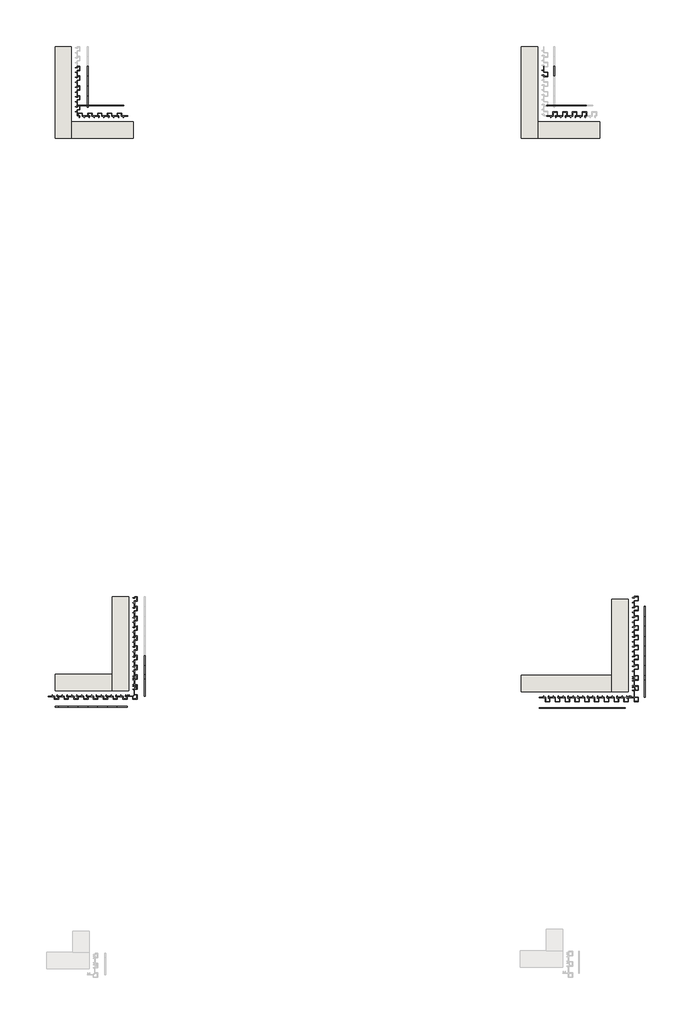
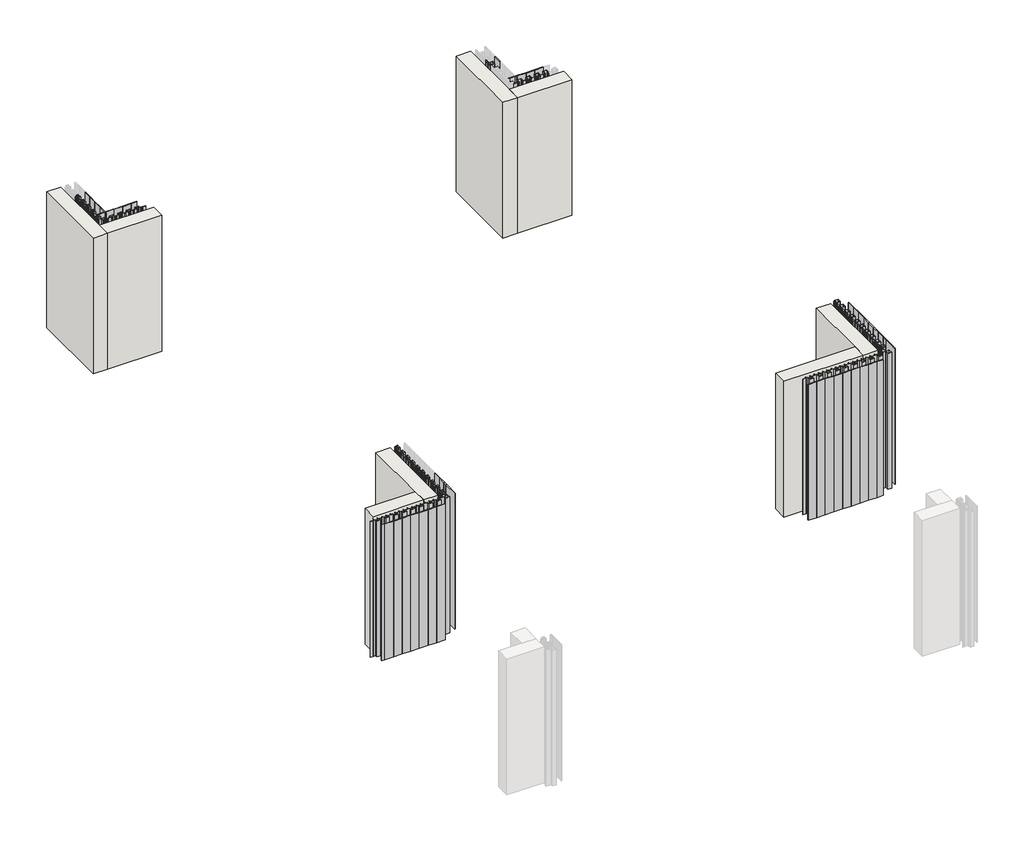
# One storey, part 3 of 5: 54 members, 46 plates, 8 walls.
"""IFC4 building model written with IfcOpenShell, lengths in millimetres."""

from ifc_helpers import new_model, si_unit, origin, origin_with_axes, place, context, project, spatial, polyline, outline, extrude, faceted_brep, transform, mapped, element, save
from components import rectangular_mullion_e7adb6c3, rectangular_mullion_4f3ead3b, rectangular_mullion_e60a95b4, rectangular_mullion_84234f72, rectangular_mullion_76c2134e, rectangular_mullion_3e5b5e47, rectangular_mullion_b2541346, rectangular_mullion_31400e68, rectangular_mullion_172d6531, rectangular_mullion_79f168d4, rectangular_mullion_f11ffd68, rectangular_mullion_de2d1e93, empty_system_panel_empty_0988e1f0, empty_system_panel_empty_c051c962, empty_system_panel_empty_5f038340, empty_system_panel_empty_5ee57205, empty_system_panel_empty_482ac549, empty_system_panel_empty_8461d5c4, empty_system_panel_empty_c6af10a3, empty_system_panel_empty_de31d617, empty_system_panel_empty_e2c7f9f0, empty_system_panel_empty_bd5c2647, empty_system_panel_empty_86054d0e, empty_system_panel_empty_80cd7aea, empty_system_panel_empty_1908f167

model = new_model("IFC4")

# Units and contexts
model_context = context("Model", 3, world=origin())
ifc_project = project(units=[si_unit("LENGTHUNIT", "METRE", prefix="MILLI")], contexts=[model_context])

# Site, building, storey
site = spatial("IfcSite", under=ifc_project)
building = spatial("IfcBuilding", under=site)
storey = spatial("IfcBuildingStorey", under=building, Name="REN - Ground plan", Elevation=0.0)

# Members
placement = place(None, origin())
rectangular_mullion_shape = rectangular_mullion_e7adb6c3(model_context)
element("IfcMember", 1, ObjectType="Rectangular Mullion : Renson_Linarte_LA-B25-03", at=placement, inside=storey, context=model_context, shape_type="MappedRepresentation", body=[
    mapped(rectangular_mullion_shape, transform((7626.8344965, 10097.3014326, 0.0), x_axis=(-6.757625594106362e-10, -1.0, 0.0), y_axis=(-1.0, 6.757625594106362e-10, 0.0), z_axis=(0.0, 0.0, -1.0))),
])
rectangular_mullion_2_shape = rectangular_mullion_4f3ead3b(model_context)
element("IfcMember", 2, ObjectType="Rectangular Mullion : Renson_Linarte_LA-B25-05", at=placement, inside=storey, context=model_context, shape_type="MappedRepresentation", body=[
    mapped(rectangular_mullion_2_shape, transform((7626.8344966, 10230.4014331, 0.0), x_axis=(-6.757625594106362e-10, -1.0, 0.0), y_axis=(-1.0, 6.757625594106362e-10, 0.0), z_axis=(0.0, 0.0, -1.0))),
])
rectangular_mullion_3_shape = rectangular_mullion_e60a95b4(model_context)
element("IfcMember", 3, ObjectType="Rectangular Mullion : Renson_Linarte_LA-B25-02", at=placement, inside=storey, context=model_context, shape_type="MappedRepresentation", body=[
    mapped(rectangular_mullion_3_shape, transform((7626.8344966, 10257.3014326, 1000.0), x_axis=(6.757625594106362e-10, 1.0, 0.0), y_axis=(-1.0, 6.757625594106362e-10, 0.0), z_axis=(0.0, 0.0, 1.0))),
])
rectangular_mullion_4_shape = rectangular_mullion_84234f72(model_context)
element("IfcMember", 4, ObjectType="Rectangular Mullion : Renson_Linarte_LA-B25-01", at=placement, inside=storey, context=model_context, shape_type="MappedRepresentation", body=[
    mapped(rectangular_mullion_4_shape, transform((7202.734497, 10158.4014326, 0.0), x_axis=(1.0, 0.0, 0.0), y_axis=(0.0, -1.0, 0.0), z_axis=(0.0, 0.0, -1.0))),
])
element("IfcMember", 5, ObjectType="Rectangular Mullion : Renson_Linarte_LA-B25-01", at=placement, inside=storey, context=model_context, shape_type="MappedRepresentation", body=[
    mapped(rectangular_mullion_4_shape, transform((7262.734497, 10158.4014326, 0.0), x_axis=(1.0, 0.0, 0.0), y_axis=(0.0, -1.0, 0.0), z_axis=(0.0, 0.0, -1.0))),
])
element("IfcMember", 6, ObjectType="Rectangular Mullion : Renson_Linarte_LA-B25-01", at=placement, inside=storey, context=model_context, shape_type="MappedRepresentation", body=[
    mapped(rectangular_mullion_4_shape, transform((7322.734497, 10158.4014326, 0.0), x_axis=(1.0, 0.0, 0.0), y_axis=(0.0, -1.0, 0.0), z_axis=(0.0, 0.0, -1.0))),
])
element("IfcMember", 7, ObjectType="Rectangular Mullion : Renson_Linarte_LA-B25-01", at=placement, inside=storey, context=model_context, shape_type="MappedRepresentation", body=[
    mapped(rectangular_mullion_4_shape, transform((7382.734497, 10158.4014326, 0.0), x_axis=(1.0, 0.0, 0.0), y_axis=(0.0, -1.0, 0.0), z_axis=(0.0, 0.0, -1.0))),
])
element("IfcMember", 8, ObjectType="Rectangular Mullion : Renson_Linarte_LA-B25-01", at=placement, inside=storey, context=model_context, shape_type="MappedRepresentation", body=[
    mapped(rectangular_mullion_4_shape, transform((7442.734497, 10158.4014326, 0.0), x_axis=(1.0, 0.0, 0.0), y_axis=(0.0, -1.0, 0.0), z_axis=(0.0, 0.0, -1.0))),
])
element("IfcMember", 9, ObjectType="Rectangular Mullion : Renson_Linarte_LA-B25-01", at=placement, inside=storey, context=model_context, shape_type="MappedRepresentation", body=[
    mapped(rectangular_mullion_4_shape, transform((7502.734497, 10158.4014326, 0.0), x_axis=(1.0, 0.0, 0.0), y_axis=(0.0, -1.0, 0.0), z_axis=(0.0, 0.0, -1.0))),
])
element("IfcMember", 10, ObjectType="Rectangular Mullion : Renson_Linarte_LA-B25-01", at=placement, inside=storey, context=model_context, shape_type="MappedRepresentation", body=[
    mapped(rectangular_mullion_4_shape, transform((7562.734497, 10158.4014326, 0.0), x_axis=(1.0, 0.0, 0.0), y_axis=(0.0, -1.0, 0.0), z_axis=(0.0, 0.0, -1.0))),
])
element("IfcMember", 11, ObjectType="Rectangular Mullion : Renson_Linarte_LA-B25-01", at=placement, inside=storey, context=model_context, shape_type="MappedRepresentation", body=[
    mapped(rectangular_mullion_4_shape, transform((7626.8344966, 10498.4014329, 0.0), x_axis=(0.0, 1.0, 0.0), y_axis=(1.0, 0.0, 0.0), z_axis=(0.0, 0.0, -1.0))),
])
element("IfcMember", 12, ObjectType="Rectangular Mullion : Renson_Linarte_LA-B25-01", at=placement, inside=storey, context=model_context, shape_type="MappedRepresentation", body=[
    mapped(rectangular_mullion_4_shape, transform((7626.8344966, 10558.4014329, 0.0), x_axis=(0.0, 1.0, 0.0), y_axis=(1.0, 0.0, 0.0), z_axis=(0.0, 0.0, -1.0))),
])
element("IfcMember", 13, ObjectType="Rectangular Mullion : Renson_Linarte_LA-B25-01", at=placement, inside=storey, context=model_context, shape_type="MappedRepresentation", body=[
    mapped(rectangular_mullion_4_shape, transform((7626.8344966, 10618.4014329, 0.0), x_axis=(0.0, 1.0, 0.0), y_axis=(1.0, 0.0, 0.0), z_axis=(0.0, 0.0, -1.0))),
])
element("IfcMember", 14, ObjectType="Rectangular Mullion : Renson_Linarte_LA-B25-01", at=placement, inside=storey, context=model_context, shape_type="MappedRepresentation", body=[
    mapped(rectangular_mullion_4_shape, transform((7626.8344966, 10678.4014329, 0.0), x_axis=(0.0, 1.0, 0.0), y_axis=(1.0, 0.0, 0.0), z_axis=(0.0, 0.0, -1.0))),
])
element("IfcMember", 15, ObjectType="Rectangular Mullion : Renson_Linarte_LA-B25-01", at=placement, inside=storey, context=model_context, shape_type="MappedRepresentation", body=[
    mapped(rectangular_mullion_4_shape, transform((7626.8344966, 10438.4014329, 0.0), x_axis=(0.0, 1.0, 0.0), y_axis=(1.0, 0.0, 0.0), z_axis=(0.0, 0.0, -1.0))),
])
element("IfcMember", 16, ObjectType="Rectangular Mullion : Renson_Linarte_LA-B25-01", at=placement, inside=storey, context=model_context, shape_type="MappedRepresentation", body=[
    mapped(rectangular_mullion_4_shape, transform((7626.8344966, 10378.4014329, 0.0), x_axis=(0.0, 1.0, 0.0), y_axis=(1.0, 0.0, 0.0), z_axis=(0.0, 0.0, -1.0))),
])
element("IfcMember", 17, ObjectType="Rectangular Mullion : Renson_Linarte_LA-B25-01", at=placement, inside=storey, context=model_context, shape_type="MappedRepresentation", body=[
    mapped(rectangular_mullion_4_shape, transform((7142.734497, 10158.4014326, 0.0), x_axis=(1.0, 0.0, 0.0), y_axis=(0.0, -1.0, 0.0), z_axis=(0.0, 0.0, -1.0))),
])
element("IfcMember", 18, ObjectType="Rectangular Mullion : Renson_Linarte_LA-B25-01", at=placement, inside=storey, context=model_context, shape_type="MappedRepresentation", body=[
    mapped(rectangular_mullion_4_shape, transform((7626.8344966, 10318.4014329, 0.0), x_axis=(0.0, 1.0, 0.0), y_axis=(1.0, 0.0, 0.0), z_axis=(0.0, 0.0, -1.0))),
])
rectangular_mullion_5_shape = rectangular_mullion_76c2134e(model_context)
element("IfcMember", 19, ObjectType="Rectangular Mullion : Renson_Linarte_LA-B25-01", at=placement, inside=storey, context=model_context, shape_type="MappedRepresentation", body=[
    mapped(rectangular_mullion_5_shape, transform((7082.7344967, 10158.4014326, 1000.0), x_axis=(-1.0, 0.0, 0.0), y_axis=(0.0, -1.0, 0.0), z_axis=(0.0, 0.0, 1.0))),
])
element("IfcMember", 20, ObjectType="Rectangular Mullion : Renson_Linarte_LA-B25-01", at=placement, inside=storey, context=model_context, shape_type="MappedRepresentation", body=[
    mapped(rectangular_mullion_5_shape, transform((7626.8344966, 10258.4014326, 1000.0), x_axis=(0.0, -1.0, 0.0), y_axis=(1.0, 0.0, 0.0), z_axis=(0.0, 0.0, 1.0))),
])
rectangular_mullion_6_shape = rectangular_mullion_3e5b5e47(model_context)
element("IfcMember", 21, ObjectType="Rectangular Mullion : Renson_Linarte_LA-B25-01", at=placement, inside=storey, context=model_context, shape_type="MappedRepresentation", body=[
    mapped(rectangular_mullion_6_shape, transform((7187.734497, 13647.7579432, 0.0), x_axis=(1.0, 0.0, 0.0), y_axis=(0.0, -1.0, 0.0), z_axis=(0.0, 0.0, -1.0))),
])
element("IfcMember", 22, ObjectType="Rectangular Mullion : Renson_Linarte_LA-B25-01", at=placement, inside=storey, context=model_context, shape_type="MappedRepresentation", body=[
    mapped(rectangular_mullion_6_shape, transform((7247.734497, 13647.7579432, 0.0), x_axis=(1.0, 0.0, 0.0), y_axis=(0.0, -1.0, 0.0), z_axis=(0.0, 0.0, -1.0))),
])
element("IfcMember", 23, ObjectType="Rectangular Mullion : Renson_Linarte_LA-B25-01", at=placement, inside=storey, context=model_context, shape_type="MappedRepresentation", body=[
    mapped(rectangular_mullion_6_shape, transform((7072.7344967, 13988.7579429, 0.0), x_axis=(0.0, -1.0, 0.0), y_axis=(-1.0, 0.0, 0.0), z_axis=(0.0, 0.0, -1.0))),
])
element("IfcMember", 24, ObjectType="Rectangular Mullion : Renson_Linarte_LA-B25-01", at=placement, inside=storey, context=model_context, shape_type="MappedRepresentation", body=[
    mapped(rectangular_mullion_6_shape, transform((7307.734497, 13647.7579432, 0.0), x_axis=(1.0, 0.0, 0.0), y_axis=(0.0, -1.0, 0.0), z_axis=(0.0, 0.0, -1.0))),
])
rectangular_mullion_7_shape = rectangular_mullion_b2541346(model_context)
element("IfcMember", 25, ObjectType="Rectangular Mullion : Renson_Linarte_LA-B25-01", at=placement, inside=storey, context=model_context, shape_type="MappedRepresentation", body=[
    mapped(rectangular_mullion_7_shape, transform((7127.7344967, 13647.7579432, 1000.0), x_axis=(-1.0, 0.0, 0.0), y_axis=(0.0, -1.0, 0.0), z_axis=(0.0, 0.0, 1.0))),
])
rectangular_mullion_8_shape = rectangular_mullion_31400e68(model_context)
element("IfcMember", 26, ObjectType="Rectangular Mullion : Renson_Linarte_LA-B16-01", at=placement, inside=storey, context=model_context, shape_type="MappedRepresentation", body=[
    mapped(rectangular_mullion_8_shape, transform((4566.7742528, 10680.7897981, 0.0), x_axis=(0.0, -1.0, 0.0), y_axis=(-1.0, 0.0, 0.0), z_axis=(0.0, 0.0, -1.0))),
])
element("IfcMember", 27, ObjectType="Rectangular Mullion : Renson_Linarte_LA-B16-01", at=placement, inside=storey, context=model_context, shape_type="MappedRepresentation", body=[
    mapped(rectangular_mullion_8_shape, transform((4566.7742528, 10620.7897981, 0.0), x_axis=(0.0, -1.0, 0.0), y_axis=(-1.0, 0.0, 0.0), z_axis=(0.0, 0.0, -1.0))),
])
element("IfcMember", 28, ObjectType="Rectangular Mullion : Renson_Linarte_LA-B16-01", at=placement, inside=storey, context=model_context, shape_type="MappedRepresentation", body=[
    mapped(rectangular_mullion_8_shape, transform((4566.7742528, 10560.7897981, 0.0), x_axis=(0.0, -1.0, 0.0), y_axis=(-1.0, 0.0, 0.0), z_axis=(0.0, 0.0, -1.0))),
])
element("IfcMember", 29, ObjectType="Rectangular Mullion : Renson_Linarte_LA-B16-01", at=placement, inside=storey, context=model_context, shape_type="MappedRepresentation", body=[
    mapped(rectangular_mullion_8_shape, transform((4566.7742528, 10500.7897981, 0.0), x_axis=(0.0, -1.0, 0.0), y_axis=(-1.0, 0.0, 0.0), z_axis=(0.0, 0.0, -1.0))),
])
element("IfcMember", 30, ObjectType="Rectangular Mullion : Renson_Linarte_LA-B16-01", at=placement, inside=storey, context=model_context, shape_type="MappedRepresentation", body=[
    mapped(rectangular_mullion_8_shape, transform((4566.7742528, 10440.7897981, 0.0), x_axis=(0.0, -1.0, 0.0), y_axis=(-1.0, 0.0, 0.0), z_axis=(0.0, 0.0, -1.0))),
])
element("IfcMember", 31, ObjectType="Rectangular Mullion : Renson_Linarte_LA-B16-01", at=placement, inside=storey, context=model_context, shape_type="MappedRepresentation", body=[
    mapped(rectangular_mullion_8_shape, transform((4566.7742528, 10380.7897981, 0.0), x_axis=(0.0, -1.0, 0.0), y_axis=(-1.0, 0.0, 0.0), z_axis=(0.0, 0.0, -1.0))),
])
element("IfcMember", 32, ObjectType="Rectangular Mullion : Renson_Linarte_LA-B16-01", at=placement, inside=storey, context=model_context, shape_type="MappedRepresentation", body=[
    mapped(rectangular_mullion_8_shape, transform((4498.9844499, 10165.6453559, 0.0), x_axis=(-1.0, 0.0, 0.0), y_axis=(0.0, 1.0, 0.0), z_axis=(0.0, 0.0, -1.0))),
])
element("IfcMember", 33, ObjectType="Rectangular Mullion : Renson_Linarte_LA-B16-01", at=placement, inside=storey, context=model_context, shape_type="MappedRepresentation", body=[
    mapped(rectangular_mullion_8_shape, transform((4438.9844499, 10165.6453559, 0.0), x_axis=(-1.0, 0.0, 0.0), y_axis=(0.0, 1.0, 0.0), z_axis=(0.0, 0.0, -1.0))),
])
element("IfcMember", 34, ObjectType="Rectangular Mullion : Renson_Linarte_LA-B16-01", at=placement, inside=storey, context=model_context, shape_type="MappedRepresentation", body=[
    mapped(rectangular_mullion_8_shape, transform((4378.9844499, 10165.6453559, 0.0), x_axis=(-1.0, 0.0, 0.0), y_axis=(0.0, 1.0, 0.0), z_axis=(0.0, 0.0, -1.0))),
])
element("IfcMember", 35, ObjectType="Rectangular Mullion : Renson_Linarte_LA-B16-01", at=placement, inside=storey, context=model_context, shape_type="MappedRepresentation", body=[
    mapped(rectangular_mullion_8_shape, transform((4318.9844499, 10165.6453559, 0.0), x_axis=(-1.0, 0.0, 0.0), y_axis=(0.0, 1.0, 0.0), z_axis=(0.0, 0.0, -1.0))),
])
element("IfcMember", 36, ObjectType="Rectangular Mullion : Renson_Linarte_LA-B16-01", at=placement, inside=storey, context=model_context, shape_type="MappedRepresentation", body=[
    mapped(rectangular_mullion_8_shape, transform((4258.9844499, 10165.6453559, 0.0), x_axis=(-1.0, 0.0, 0.0), y_axis=(0.0, 1.0, 0.0), z_axis=(0.0, 0.0, -1.0))),
])
element("IfcMember", 37, ObjectType="Rectangular Mullion : Renson_Linarte_LA-B16-01", at=placement, inside=storey, context=model_context, shape_type="MappedRepresentation", body=[
    mapped(rectangular_mullion_8_shape, transform((4198.9844499, 10165.6453559, 0.0), x_axis=(-1.0, 0.0, 0.0), y_axis=(0.0, 1.0, 0.0), z_axis=(0.0, 0.0, -1.0))),
])
element("IfcMember", 38, ObjectType="Rectangular Mullion : Renson_Linarte_LA-B16-01", at=placement, inside=storey, context=model_context, shape_type="MappedRepresentation", body=[
    mapped(rectangular_mullion_8_shape, transform((4566.7742528, 10320.7897981, 0.0), x_axis=(0.0, -1.0, 0.0), y_axis=(-1.0, 0.0, 0.0), z_axis=(0.0, 0.0, -1.0))),
])
element("IfcMember", 39, ObjectType="Rectangular Mullion : Renson_Linarte_LA-B16-01", at=placement, inside=storey, context=model_context, shape_type="MappedRepresentation", body=[
    mapped(rectangular_mullion_8_shape, transform((4138.9844499, 10165.6453559, 0.0), x_axis=(-1.0, 0.0, 0.0), y_axis=(0.0, 1.0, 0.0), z_axis=(0.0, 0.0, -1.0))),
])
element("IfcMember", 40, ObjectType="Rectangular Mullion : Renson_Linarte_LA-B16-01", at=placement, inside=storey, context=model_context, shape_type="MappedRepresentation", body=[
    mapped(rectangular_mullion_8_shape, transform((4316.774253, 13647.7579432, 0.0), x_axis=(1.0, 0.0, 0.0), y_axis=(0.0, -1.0, 0.0), z_axis=(0.0, 0.0, -1.0))),
])
element("IfcMember", 41, ObjectType="Rectangular Mullion : Renson_Linarte_LA-B16-01", at=placement, inside=storey, context=model_context, shape_type="MappedRepresentation", body=[
    mapped(rectangular_mullion_8_shape, transform((4376.774253, 13647.7579432, 0.0), x_axis=(1.0, 0.0, 0.0), y_axis=(0.0, -1.0, 0.0), z_axis=(0.0, 0.0, -1.0))),
])
element("IfcMember", 42, ObjectType="Rectangular Mullion : Renson_Linarte_LA-B16-01", at=placement, inside=storey, context=model_context, shape_type="MappedRepresentation", body=[
    mapped(rectangular_mullion_8_shape, transform((4216.7742527, 13988.7579429, 0.0), x_axis=(0.0, -1.0, 0.0), y_axis=(-1.0, 0.0, 0.0), z_axis=(0.0, 0.0, -1.0))),
])
element("IfcMember", 43, ObjectType="Rectangular Mullion : Renson_Linarte_LA-B16-01", at=placement, inside=storey, context=model_context, shape_type="MappedRepresentation", body=[
    mapped(rectangular_mullion_8_shape, transform((4436.774253, 13647.7579432, 0.0), x_axis=(1.0, 0.0, 0.0), y_axis=(0.0, -1.0, 0.0), z_axis=(0.0, 0.0, -1.0))),
])
element("IfcMember", 44, ObjectType="Rectangular Mullion : Renson_Linarte_LA-B16-01", at=placement, inside=storey, context=model_context, shape_type="MappedRepresentation", body=[
    mapped(rectangular_mullion_8_shape, transform((4216.7742527, 13928.7579429, 0.0), x_axis=(0.0, -1.0, 0.0), y_axis=(-1.0, 0.0, 0.0), z_axis=(0.0, 0.0, -1.0))),
])
element("IfcMember", 45, ObjectType="Rectangular Mullion : Renson_Linarte_LA-B16-01", at=placement, inside=storey, context=model_context, shape_type="MappedRepresentation", body=[
    mapped(rectangular_mullion_8_shape, transform((4216.7742527, 13868.7579429, 0.0), x_axis=(0.0, -1.0, 0.0), y_axis=(-1.0, 0.0, 0.0), z_axis=(0.0, 0.0, -1.0))),
])
element("IfcMember", 46, ObjectType="Rectangular Mullion : Renson_Linarte_LA-B16-01", at=placement, inside=storey, context=model_context, shape_type="MappedRepresentation", body=[
    mapped(rectangular_mullion_8_shape, transform((4216.7742527, 13808.7579429, 0.0), x_axis=(0.0, -1.0, 0.0), y_axis=(-1.0, 0.0, 0.0), z_axis=(0.0, 0.0, -1.0))),
])
element("IfcMember", 47, ObjectType="Rectangular Mullion : Renson_Linarte_LA-B16-01", at=placement, inside=storey, context=model_context, shape_type="MappedRepresentation", body=[
    mapped(rectangular_mullion_8_shape, transform((4496.774253, 13647.7579432, 0.0), x_axis=(1.0, 0.0, 0.0), y_axis=(0.0, -1.0, 0.0), z_axis=(0.0, 0.0, -1.0))),
])
element("IfcMember", 48, ObjectType="Rectangular Mullion : Renson_Linarte_LA-B16-01", at=placement, inside=storey, context=model_context, shape_type="MappedRepresentation", body=[
    mapped(rectangular_mullion_8_shape, transform((4216.7742527, 13748.7579429, 0.0), x_axis=(0.0, -1.0, 0.0), y_axis=(-1.0, 0.0, 0.0), z_axis=(0.0, 0.0, -1.0))),
])
rectangular_mullion_9_shape = rectangular_mullion_172d6531(model_context)
element("IfcMember", 49, ObjectType="Rectangular Mullion : Renson_Linarte_LA-B16-05", at=placement, inside=storey, context=model_context, shape_type="MappedRepresentation", body=[
    mapped(rectangular_mullion_9_shape, transform((4566.7742529, 10237.6453562, 0.0), x_axis=(0.0, -1.0, 0.0), y_axis=(-1.0, 0.0, 0.0), z_axis=(0.0, 0.0, -1.0))),
])
rectangular_mullion_10_shape = rectangular_mullion_79f168d4(model_context)
element("IfcMember", 50, ObjectType="Rectangular Mullion : Renson_Linarte_LA-B16-02", at=placement, inside=storey, context=model_context, shape_type="MappedRepresentation", body=[
    mapped(rectangular_mullion_10_shape, transform((4566.7742529, 10260.7897981, 1000.0), x_axis=(0.0, 1.0, 0.0), y_axis=(-1.0, 0.0, 0.0), z_axis=(0.0, 0.0, 1.0))),
])
rectangular_mullion_11_shape = rectangular_mullion_f11ffd68(model_context)
element("IfcMember", 51, ObjectType="Rectangular Mullion : Renson_Linarte_LA-B16-03", at=placement, inside=storey, context=model_context, shape_type="MappedRepresentation", body=[
    mapped(rectangular_mullion_11_shape, transform((4566.7742529, 10113.5453557, 0.0), x_axis=(0.0, -1.0, 0.0), y_axis=(-1.0, 0.0, 0.0), z_axis=(0.0, 0.0, -1.0))),
])
rectangular_mullion_12_shape = rectangular_mullion_de2d1e93(model_context)
element("IfcMember", 52, ObjectType="Rectangular Mullion : Renson_Linarte_LA-B16-01", at=placement, inside=storey, context=model_context, shape_type="MappedRepresentation", body=[
    mapped(rectangular_mullion_12_shape, transform((4566.7742528, 10740.7897984, 1000.0), x_axis=(0.0, 1.0, 0.0), y_axis=(-1.0, 0.0, 0.0), z_axis=(0.0, 0.0, 1.0))),
])
element("IfcMember", 53, ObjectType="Rectangular Mullion : Renson_Linarte_LA-B16-01", at=placement, inside=storey, context=model_context, shape_type="MappedRepresentation", body=[
    mapped(rectangular_mullion_12_shape, transform((4558.9844502, 10165.6453559, 1000.0), x_axis=(1.0, 0.0, 0.0), y_axis=(0.0, 1.0, 0.0), z_axis=(0.0, 0.0, 1.0))),
])
element("IfcMember", 54, ObjectType="Rectangular Mullion : Renson_Linarte_LA-B16-01", at=placement, inside=storey, context=model_context, shape_type="MappedRepresentation", body=[
    mapped(rectangular_mullion_12_shape, transform((4256.7742527, 13647.7579432, 1000.0), x_axis=(-1.0, 0.0, 0.0), y_axis=(0.0, -1.0, 0.0), z_axis=(0.0, 0.0, 1.0))),
])

# Plates
empty_system_panel_empty_shape = empty_system_panel_empty_0988e1f0(model_context)
element("IfcPlate", 55, ObjectType="Empty System Panel : Empty", at=placement, inside=storey, context=model_context, shape_type="MappedRepresentation", body=[
    mapped(empty_system_panel_empty_shape, transform((7232.734497, 10158.4014326, 0.0), x_axis=(1.0, 0.0, 0.0), y_axis=(0.0, 1.0, 0.0), z_axis=(0.0, 0.0, 1.0))),
])
element("IfcPlate", 56, ObjectType="Empty System Panel : Empty", at=placement, inside=storey, context=model_context, shape_type="MappedRepresentation", body=[
    mapped(empty_system_panel_empty_shape, transform((7292.734497, 10158.4014326, 0.0), x_axis=(1.0, 0.0, 0.0), y_axis=(0.0, 1.0, 0.0), z_axis=(0.0, 0.0, 1.0))),
])
element("IfcPlate", 57, ObjectType="Empty System Panel : Empty", at=placement, inside=storey, context=model_context, shape_type="MappedRepresentation", body=[
    mapped(empty_system_panel_empty_shape, transform((7352.734497, 10158.4014326, 0.0), x_axis=(1.0, 0.0, 0.0), y_axis=(0.0, 1.0, 0.0), z_axis=(0.0, 0.0, 1.0))),
])
element("IfcPlate", 58, ObjectType="Empty System Panel : Empty", at=placement, inside=storey, context=model_context, shape_type="MappedRepresentation", body=[
    mapped(empty_system_panel_empty_shape, transform((7412.734497, 10158.4014326, 0.0), x_axis=(1.0, 0.0, 0.0), y_axis=(0.0, 1.0, 0.0), z_axis=(0.0, 0.0, 1.0))),
])
element("IfcPlate", 59, ObjectType="Empty System Panel : Empty", at=placement, inside=storey, context=model_context, shape_type="MappedRepresentation", body=[
    mapped(empty_system_panel_empty_shape, transform((7472.734497, 10158.4014326, 0.0), x_axis=(1.0, 0.0, 0.0), y_axis=(0.0, 1.0, 0.0), z_axis=(0.0, 0.0, 1.0))),
])
element("IfcPlate", 60, ObjectType="Empty System Panel : Empty", at=placement, inside=storey, context=model_context, shape_type="MappedRepresentation", body=[
    mapped(empty_system_panel_empty_shape, transform((7532.734497, 10158.4014326, 0.0), x_axis=(1.0, 0.0, 0.0), y_axis=(0.0, 1.0, 0.0), z_axis=(0.0, 0.0, 1.0))),
])
element("IfcPlate", 61, ObjectType="Empty System Panel : Empty", at=placement, inside=storey, context=model_context, shape_type="MappedRepresentation", body=[
    mapped(empty_system_panel_empty_shape, transform((7626.8344966, 10528.4014329, 0.0), x_axis=(0.0, 1.0, 0.0), y_axis=(-1.0, 0.0, 0.0), z_axis=(0.0, 0.0, 1.0))),
])
element("IfcPlate", 62, ObjectType="Empty System Panel : Empty", at=placement, inside=storey, context=model_context, shape_type="MappedRepresentation", body=[
    mapped(empty_system_panel_empty_shape, transform((7626.8344966, 10588.4014329, 0.0), x_axis=(0.0, 1.0, 0.0), y_axis=(-1.0, 0.0, 0.0), z_axis=(0.0, 0.0, 1.0))),
])
element("IfcPlate", 63, ObjectType="Empty System Panel : Empty", at=placement, inside=storey, context=model_context, shape_type="MappedRepresentation", body=[
    mapped(empty_system_panel_empty_shape, transform((7626.8344966, 10648.4014329, 0.0), x_axis=(0.0, 1.0, 0.0), y_axis=(-1.0, 0.0, 0.0), z_axis=(0.0, 0.0, 1.0))),
])
element("IfcPlate", 64, ObjectType="Empty System Panel : Empty", at=placement, inside=storey, context=model_context, shape_type="MappedRepresentation", body=[
    mapped(empty_system_panel_empty_shape, transform((7626.8344966, 10468.4014329, 0.0), x_axis=(0.0, 1.0, 0.0), y_axis=(-1.0, 0.0, 0.0), z_axis=(0.0, 0.0, 1.0))),
])
element("IfcPlate", 65, ObjectType="Empty System Panel : Empty", at=placement, inside=storey, context=model_context, shape_type="MappedRepresentation", body=[
    mapped(empty_system_panel_empty_shape, transform((7626.8344966, 10408.4014329, 0.0), x_axis=(0.0, 1.0, 0.0), y_axis=(-1.0, 0.0, 0.0), z_axis=(0.0, 0.0, 1.0))),
])
element("IfcPlate", 66, ObjectType="Empty System Panel : Empty", at=placement, inside=storey, context=model_context, shape_type="MappedRepresentation", body=[
    mapped(empty_system_panel_empty_shape, transform((7172.734497, 10158.4014326, 0.0), x_axis=(1.0, 0.0, 0.0), y_axis=(0.0, 1.0, 0.0), z_axis=(0.0, 0.0, 1.0))),
])
element("IfcPlate", 67, ObjectType="Empty System Panel : Empty", at=placement, inside=storey, context=model_context, shape_type="MappedRepresentation", body=[
    mapped(empty_system_panel_empty_shape, transform((7626.8344966, 10348.4014329, 0.0), x_axis=(0.0, 1.0, 0.0), y_axis=(-1.0, 0.0, 0.0), z_axis=(0.0, 0.0, 1.0))),
])
empty_system_panel_empty_2_shape = empty_system_panel_empty_c051c962(model_context)
element("IfcPlate", 68, ObjectType="Empty System Panel : Empty", at=placement, inside=storey, context=model_context, shape_type="MappedRepresentation", body=[
    mapped(empty_system_panel_empty_2_shape, transform((7112.7344968, 10158.4014326, 0.0), x_axis=(1.0, 0.0, 0.0), y_axis=(0.0, 1.0, 0.0), z_axis=(0.0, 0.0, 1.0))),
])
element("IfcPlate", 69, ObjectType="Empty System Panel : Empty", at=placement, inside=storey, context=model_context, shape_type="MappedRepresentation", body=[
    mapped(empty_system_panel_empty_2_shape, transform((7626.8344966, 10288.4014328, 0.0), x_axis=(0.0, 1.0, 0.0), y_axis=(-1.0, 0.0, 0.0), z_axis=(0.0, 0.0, 1.0))),
])
empty_system_panel_empty_3_shape = empty_system_panel_empty_5f038340(model_context)
element("IfcPlate", 70, ObjectType="Empty System Panel : Empty", at=placement, inside=storey, context=model_context, shape_type="MappedRepresentation", body=[
    mapped(empty_system_panel_empty_3_shape, transform((7626.8344966, 10177.0951375, 0.0), x_axis=(-6.757625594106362e-10, -1.0, 0.0), y_axis=(1.0, -6.757625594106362e-10, 0.0), z_axis=(0.0, 0.0, 1.0))),
])
empty_system_panel_empty_4_shape = empty_system_panel_empty_5ee57205(model_context)
element("IfcPlate", 71, ObjectType="Empty System Panel : Empty", at=placement, inside=storey, context=model_context, shape_type="MappedRepresentation", body=[
    mapped(empty_system_panel_empty_4_shape, transform((4566.7742528, 10350.7897981, 0.0), x_axis=(0.0, -1.0, 0.0), y_axis=(1.0, 0.0, 0.0), z_axis=(0.0, 0.0, 1.0))),
])
element("IfcPlate", 72, ObjectType="Empty System Panel : Empty", at=placement, inside=storey, context=model_context, shape_type="MappedRepresentation", body=[
    mapped(empty_system_panel_empty_4_shape, transform((4468.9844499, 10165.6453559, 0.0), x_axis=(-1.0, 0.0, 0.0), y_axis=(0.0, -1.0, 0.0), z_axis=(0.0, 0.0, 1.0))),
])
element("IfcPlate", 73, ObjectType="Empty System Panel : Empty", at=placement, inside=storey, context=model_context, shape_type="MappedRepresentation", body=[
    mapped(empty_system_panel_empty_4_shape, transform((4408.9844499, 10165.6453559, 0.0), x_axis=(-1.0, 0.0, 0.0), y_axis=(0.0, -1.0, 0.0), z_axis=(0.0, 0.0, 1.0))),
])
element("IfcPlate", 74, ObjectType="Empty System Panel : Empty", at=placement, inside=storey, context=model_context, shape_type="MappedRepresentation", body=[
    mapped(empty_system_panel_empty_4_shape, transform((4348.9844499, 10165.6453559, 0.0), x_axis=(-1.0, 0.0, 0.0), y_axis=(0.0, -1.0, 0.0), z_axis=(0.0, 0.0, 1.0))),
])
element("IfcPlate", 75, ObjectType="Empty System Panel : Empty", at=placement, inside=storey, context=model_context, shape_type="MappedRepresentation", body=[
    mapped(empty_system_panel_empty_4_shape, transform((4288.9844499, 10165.6453559, 0.0), x_axis=(-1.0, 0.0, 0.0), y_axis=(0.0, -1.0, 0.0), z_axis=(0.0, 0.0, 1.0))),
])
element("IfcPlate", 76, ObjectType="Empty System Panel : Empty", at=placement, inside=storey, context=model_context, shape_type="MappedRepresentation", body=[
    mapped(empty_system_panel_empty_4_shape, transform((4228.9844499, 10165.6453559, 0.0), x_axis=(-1.0, 0.0, 0.0), y_axis=(0.0, -1.0, 0.0), z_axis=(0.0, 0.0, 1.0))),
])
element("IfcPlate", 77, ObjectType="Empty System Panel : Empty", at=placement, inside=storey, context=model_context, shape_type="MappedRepresentation", body=[
    mapped(empty_system_panel_empty_4_shape, transform((4168.9844499, 10165.6453559, 0.0), x_axis=(-1.0, 0.0, 0.0), y_axis=(0.0, -1.0, 0.0), z_axis=(0.0, 0.0, 1.0))),
])
element("IfcPlate", 78, ObjectType="Empty System Panel : Empty", at=placement, inside=storey, context=model_context, shape_type="MappedRepresentation", body=[
    mapped(empty_system_panel_empty_4_shape, transform((4566.7742528, 10290.7897981, 0.0), x_axis=(0.0, -1.0, 0.0), y_axis=(1.0, 0.0, 0.0), z_axis=(0.0, 0.0, 1.0))),
])
element("IfcPlate", 79, ObjectType="Empty System Panel : Empty", at=placement, inside=storey, context=model_context, shape_type="MappedRepresentation", body=[
    mapped(empty_system_panel_empty_4_shape, transform((4346.774253, 13647.7579432, 0.0), x_axis=(1.0, 0.0, 0.0), y_axis=(0.0, 1.0, 0.0), z_axis=(0.0, 0.0, 1.0))),
])
element("IfcPlate", 80, ObjectType="Empty System Panel : Empty", at=placement, inside=storey, context=model_context, shape_type="MappedRepresentation", body=[
    mapped(empty_system_panel_empty_4_shape, transform((4406.774253, 13647.7579432, 0.0), x_axis=(1.0, 0.0, 0.0), y_axis=(0.0, 1.0, 0.0), z_axis=(0.0, 0.0, 1.0))),
])
element("IfcPlate", 81, ObjectType="Empty System Panel : Empty", at=placement, inside=storey, context=model_context, shape_type="MappedRepresentation", body=[
    mapped(empty_system_panel_empty_4_shape, transform((4216.7742527, 13958.7579429, 0.0), x_axis=(0.0, -1.0, 0.0), y_axis=(1.0, 0.0, 0.0), z_axis=(0.0, 0.0, 1.0))),
])
element("IfcPlate", 82, ObjectType="Empty System Panel : Empty", at=placement, inside=storey, context=model_context, shape_type="MappedRepresentation", body=[
    mapped(empty_system_panel_empty_4_shape, transform((4466.774253, 13647.7579432, 0.0), x_axis=(1.0, 0.0, 0.0), y_axis=(0.0, 1.0, 0.0), z_axis=(0.0, 0.0, 1.0))),
])
element("IfcPlate", 83, ObjectType="Empty System Panel : Empty", at=placement, inside=storey, context=model_context, shape_type="MappedRepresentation", body=[
    mapped(empty_system_panel_empty_4_shape, transform((4216.7742527, 13898.7579429, 0.0), x_axis=(0.0, -1.0, 0.0), y_axis=(1.0, 0.0, 0.0), z_axis=(0.0, 0.0, 1.0))),
])
element("IfcPlate", 84, ObjectType="Empty System Panel : Empty", at=placement, inside=storey, context=model_context, shape_type="MappedRepresentation", body=[
    mapped(empty_system_panel_empty_4_shape, transform((4216.7742527, 13838.7579429, 0.0), x_axis=(0.0, -1.0, 0.0), y_axis=(1.0, 0.0, 0.0), z_axis=(0.0, 0.0, 1.0))),
])
element("IfcPlate", 85, ObjectType="Empty System Panel : Empty", at=placement, inside=storey, context=model_context, shape_type="MappedRepresentation", body=[
    mapped(empty_system_panel_empty_4_shape, transform((4216.7742527, 13778.7579429, 0.0), x_axis=(0.0, -1.0, 0.0), y_axis=(1.0, 0.0, 0.0), z_axis=(0.0, 0.0, 1.0))),
])
element("IfcPlate", 86, ObjectType="Empty System Panel : Empty", at=placement, inside=storey, context=model_context, shape_type="MappedRepresentation", body=[
    mapped(empty_system_panel_empty_4_shape, transform((7217.734497, 13647.7579432, 0.0), x_axis=(1.0, 0.0, 0.0), y_axis=(0.0, 1.0, 0.0), z_axis=(0.0, 0.0, 1.0))),
])
element("IfcPlate", 87, ObjectType="Empty System Panel : Empty", at=placement, inside=storey, context=model_context, shape_type="MappedRepresentation", body=[
    mapped(empty_system_panel_empty_4_shape, transform((7277.734497, 13647.7579432, 0.0), x_axis=(1.0, 0.0, 0.0), y_axis=(0.0, 1.0, 0.0), z_axis=(0.0, 0.0, 1.0))),
])
element("IfcPlate", 88, ObjectType="Empty System Panel : Empty", at=placement, inside=storey, context=model_context, shape_type="MappedRepresentation", body=[
    mapped(empty_system_panel_empty_4_shape, transform((7072.7344967, 13958.7579429, 0.0), x_axis=(0.0, -1.0, 0.0), y_axis=(1.0, 0.0, 0.0), z_axis=(0.0, 0.0, 1.0))),
])
element("IfcPlate", 89, ObjectType="Empty System Panel : Empty", at=placement, inside=storey, context=model_context, shape_type="MappedRepresentation", body=[
    mapped(empty_system_panel_empty_4_shape, transform((7337.734497, 13647.7579432, 0.0), x_axis=(1.0, 0.0, 0.0), y_axis=(0.0, 1.0, 0.0), z_axis=(0.0, 0.0, 1.0))),
])
empty_system_panel_empty_5_shape = empty_system_panel_empty_482ac549(model_context)
element("IfcPlate", 90, ObjectType="Empty System Panel : Empty", at=placement, inside=storey, context=model_context, shape_type="MappedRepresentation", body=[
    mapped(empty_system_panel_empty_5_shape, transform((4566.7742529, 10249.2175772, 0.0), x_axis=(0.0, -1.0, 0.0), y_axis=(1.0, 0.0, 0.0), z_axis=(0.0, 0.0, 1.0))),
])
empty_system_panel_empty_6_shape = empty_system_panel_empty_8461d5c4(model_context)
element("IfcPlate", 91, ObjectType="Empty System Panel : Empty", at=placement, inside=storey, context=model_context, shape_type="MappedRepresentation", body=[
    mapped(empty_system_panel_empty_6_shape, transform((4566.7742529, 10184.345356, 0.0), x_axis=(0.0, -1.0, 0.0), y_axis=(1.0, 0.0, 0.0), z_axis=(0.0, 0.0, 1.0))),
])
empty_system_panel_empty_7_shape = empty_system_panel_empty_c6af10a3(model_context)
element("IfcPlate", 92, ObjectType="Empty System Panel : Empty", at=placement, inside=storey, context=model_context, shape_type="MappedRepresentation", body=[
    mapped(empty_system_panel_empty_7_shape, transform((4528.98445, 10165.6453559, 0.0), x_axis=(-1.0, 0.0, 0.0), y_axis=(0.0, -1.0, 0.0), z_axis=(0.0, 0.0, 1.0))),
])
element("IfcPlate", 93, ObjectType="Empty System Panel : Empty", at=placement, inside=storey, context=model_context, shape_type="MappedRepresentation", body=[
    mapped(empty_system_panel_empty_7_shape, transform((4286.7742529, 13647.7579432, 0.0), x_axis=(1.0, 0.0, 0.0), y_axis=(0.0, 1.0, 0.0), z_axis=(0.0, 0.0, 1.0))),
])
element("IfcPlate", 94, ObjectType="Empty System Panel : Empty", at=placement, inside=storey, context=model_context, shape_type="MappedRepresentation", body=[
    mapped(empty_system_panel_empty_7_shape, transform((7157.7344968, 13647.7579432, 0.0), x_axis=(1.0, 0.0, 0.0), y_axis=(0.0, 1.0, 0.0), z_axis=(0.0, 0.0, 1.0))),
])
empty_system_panel_empty_8_shape = empty_system_panel_empty_de31d617(model_context)
element("IfcPlate", 95, ObjectType="Empty System Panel : Empty", at=placement, inside=storey, context=model_context, shape_type="MappedRepresentation", body=[
    mapped(empty_system_panel_empty_8_shape, transform((4127.8793513, 10165.6453559, 0.0), x_axis=(-1.0, 0.0, 0.0), y_axis=(0.0, -1.0, 0.0), z_axis=(0.0, 0.0, 1.0))),
])
empty_system_panel_empty_9_shape = empty_system_panel_empty_e2c7f9f0(model_context)
element("IfcPlate", 96, ObjectType="Empty System Panel : Empty", at=placement, inside=storey, context=model_context, shape_type="MappedRepresentation", body=[
    mapped(empty_system_panel_empty_9_shape, transform((4516.7742529, 13647.7579432, 0.0), x_axis=(1.0, 0.0, 0.0), y_axis=(0.0, 1.0, 0.0), z_axis=(0.0, 0.0, 1.0))),
])
empty_system_panel_empty_10_shape = empty_system_panel_empty_bd5c2647(model_context)
element("IfcPlate", 97, ObjectType="Empty System Panel : Empty", at=placement, inside=storey, context=model_context, shape_type="MappedRepresentation", body=[
    mapped(empty_system_panel_empty_10_shape, transform((4216.7742527, 13743.2579431, 0.0), x_axis=(0.0, -1.0, 0.0), y_axis=(1.0, 0.0, 0.0), z_axis=(0.0, 0.0, 1.0))),
])
empty_system_panel_empty_11_shape = empty_system_panel_empty_86054d0e(model_context)
element("IfcPlate", 98, ObjectType="Empty System Panel : Empty", at=placement, inside=storey, context=model_context, shape_type="MappedRepresentation", body=[
    mapped(empty_system_panel_empty_11_shape, transform((7584.7844968, 10158.4014326, 0.0), x_axis=(1.0, 0.0, 0.0), y_axis=(0.0, 1.0, 0.0), z_axis=(0.0, 0.0, 1.0))),
])
empty_system_panel_empty_12_shape = empty_system_panel_empty_80cd7aea(model_context)
element("IfcPlate", 99, ObjectType="Empty System Panel : Empty", at=placement, inside=storey, context=model_context, shape_type="MappedRepresentation", body=[
    mapped(empty_system_panel_empty_12_shape, transform((7626.8344966, 10243.8514329, 0.0), x_axis=(-6.757625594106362e-10, -1.0, 0.0), y_axis=(1.0, -6.757625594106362e-10, 0.0), z_axis=(0.0, 0.0, 1.0))),
])
empty_system_panel_empty_13_shape = empty_system_panel_empty_1908f167(model_context)
element("IfcPlate", 100, ObjectType="Empty System Panel : Empty", at=placement, inside=storey, context=model_context, shape_type="MappedRepresentation", body=[
    mapped(empty_system_panel_empty_13_shape, transform((7626.8344966, 10680.3514327, 0.0), x_axis=(0.0, 1.0, 0.0), y_axis=(-1.0, 0.0, 0.0), z_axis=(0.0, 0.0, 1.0))),
])

# Walls
element("IfcWall", 101, ObjectType="Wall basic", at=placement, inside=storey, context=model_context, shape_type="Brep", body=[
    faceted_brep([(4466.7742528, 10740.7897984, 0.0), (4466.7742528, 10265.6453559, 0.0), (4466.7742528, 10165.6453559, 0.0), (4466.7742528, 10165.6453559, 1000.0), (4466.7742528, 10265.6453559, 1000.0), (4466.7742528, 10740.7897984, 1000.0), (4566.7742528, 10740.7897984, 0.0), (4566.7742528, 10740.7897984, 1000.0), (4566.7742528, 10165.6453559, 1000.0), (4566.7742528, 10165.6453559, 0.0)], [[[0, 1, 2, 3, 4, 5]], [[6, 7, 8, 9]], [[2, 1, 0, 6, 9]], [[5, 4, 3, 8, 7]], [[0, 5, 7, 6]], [[3, 2, 9, 8]]]),
])
element("IfcWall", 102, ObjectType="Wall basic", at=placement, inside=storey, context=model_context, shape_type="SweptSolid", body=[
    extrude(outline(polyline([(4116.7742528, 10265.6453559), (4466.7742528, 10265.6453559), (4466.7742528, 10165.6453559), (4116.7742528, 10165.6453559), (4116.7742528, 10265.6453559)])), origin_with_axes(), (0.0, 0.0, 1.0), 1000.0),
])
element("IfcWall", 103, ObjectType="Wall basic", at=placement, inside=storey, context=model_context, shape_type="Brep", body=[
    faceted_brep([(4116.7742528, 14108.7579432, 0.0), (4116.7742528, 13547.7579432, 0.0), (4116.7742528, 13547.7579432, 1000.0), (4116.7742528, 14108.7579432, 1000.0), (4216.7742528, 14108.7579432, 0.0), (4216.7742528, 14108.7579432, 1000.0), (4216.7742528, 13647.7579432, 1000.0), (4216.7742528, 13547.7579432, 1000.0), (4216.7742528, 13547.7579432, 0.0), (4216.7742528, 13647.7579432, 0.0)], [[[0, 1, 2, 3]], [[4, 5, 6, 7, 8, 9]], [[1, 0, 4, 9, 8]], [[3, 2, 7, 6, 5]], [[0, 3, 5, 4]], [[2, 1, 8, 7]]]),
])
element("IfcWall", 104, ObjectType="Wall basic", at=placement, inside=storey, context=model_context, shape_type="SweptSolid", body=[
    extrude(outline(polyline([(4596.7742528, 13547.7579432), (4216.7742528, 13547.7579432), (4216.7742528, 13647.7579432), (4596.7742528, 13647.7579432), (4596.7742528, 13547.7579432)])), origin_with_axes(), (0.0, 0.0, 1.0), 1000.0),
])
element("IfcWall", 105, ObjectType="Wall basic", at=placement, inside=storey, context=model_context, shape_type="Brep", body=[
    faceted_brep([(7526.8344966, 10724.0567224, 0.0), (7526.8344966, 10258.4014326, 0.0), (7526.8344966, 10158.4014326, 0.0), (7526.8344966, 10158.4014326, 1000.0), (7526.8344966, 10258.4014326, 1000.0), (7526.8344966, 10724.0567224, 1000.0), (7626.8344966, 10724.0567224, 0.0), (7626.8344966, 10724.0567224, 1000.0), (7626.8344966, 10158.4014326, 1000.0), (7626.8344966, 10158.4014326, 0.0)], [[[0, 1, 2, 3, 4, 5]], [[6, 7, 8, 9]], [[2, 1, 0, 6, 9]], [[5, 4, 3, 8, 7]], [[0, 5, 7, 6]], [[3, 2, 9, 8]]]),
])
element("IfcWall", 106, ObjectType="Wall basic", at=placement, inside=storey, context=model_context, shape_type="SweptSolid", body=[
    extrude(outline(polyline([(6972.7344967, 10258.4014326), (7526.8344966, 10258.4014326), (7526.8344966, 10158.4014326), (6972.7344967, 10158.4014326), (6972.7344967, 10258.4014326)])), origin_with_axes(), (0.0, 0.0, 1.0), 1000.0),
])
element("IfcWall", 107, ObjectType="Wall basic", at=placement, inside=storey, context=model_context, shape_type="Brep", body=[
    faceted_brep([(6972.7344968, 14108.7579432, 0.0), (6972.7344968, 13547.7579432, 0.0), (6972.7344968, 13547.7579432, 1000.0), (6972.7344968, 14108.7579432, 1000.0), (7072.7344968, 14108.7579432, 0.0), (7072.7344968, 14108.7579432, 1000.0), (7072.7344968, 13647.7579432, 1000.0), (7072.7344968, 13547.7579432, 1000.0), (7072.7344968, 13547.7579432, 0.0), (7072.7344968, 13647.7579432, 0.0)], [[[0, 1, 2, 3]], [[4, 5, 6, 7, 8, 9]], [[1, 0, 4, 9, 8]], [[3, 2, 7, 6, 5]], [[0, 3, 5, 4]], [[2, 1, 8, 7]]]),
])
element("IfcWall", 108, ObjectType="Wall basic", at=placement, inside=storey, context=model_context, shape_type="SweptSolid", body=[
    extrude(outline(polyline([(7452.7344968, 13547.7579432), (7072.7344968, 13547.7579432), (7072.7344968, 13647.7579432), (7452.7344968, 13647.7579432), (7452.7344968, 13547.7579432)])), origin_with_axes(), (0.0, 0.0, 1.0), 1000.0),
])

save(model, "model.ifc")
